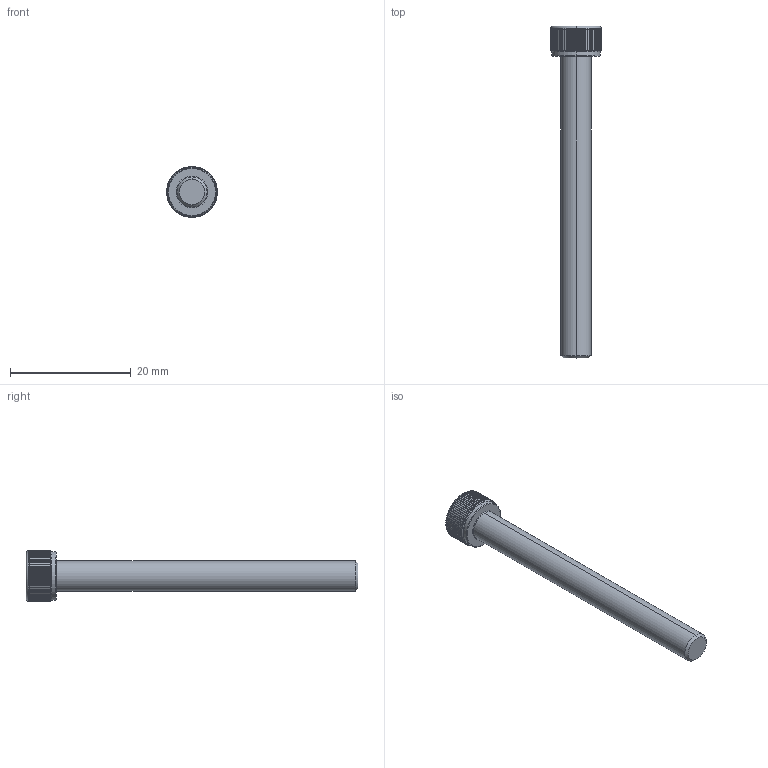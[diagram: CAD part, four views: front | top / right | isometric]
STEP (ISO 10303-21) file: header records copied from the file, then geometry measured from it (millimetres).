
FILE_DESCRIPTION (( 'STEP AP203' ), '1' );
FILE_NAME ('LGDT-304-M5x50.STEP', '2026-08-10T04:05:17', ( '' ), ( '' ), 'SwSTEP 2.0', 'SolidWorks 2020', '' );
FILE_SCHEMA (( 'CONFIG_CONTROL_DESIGN' ));
Length unit declared in the file: millimetre
Products named in the file (1): LGDT-304-M5x50
Bounding box: 8.4 x 55 x 8.4 mm (x, y, z)
Volume: 1209.8 mm3; surface area: 1054.1 mm2
Topology: 1 solids, 1 shells, 204 faces, 576 edges, 376 vertices
Faces by surface type: cylinder 175, cone 11, plane 10, torus 8
Entity records: 8367 total; most frequent: CARTESIAN_POINT 3208, ORIENTED_EDGE 1152, DIRECTION 988, EDGE_CURVE 576, AXIS2_PLACEMENT_3D 398, VERTEX_POINT 376, EDGE_LOOP 206, FACE_OUTER_BOUND 204
